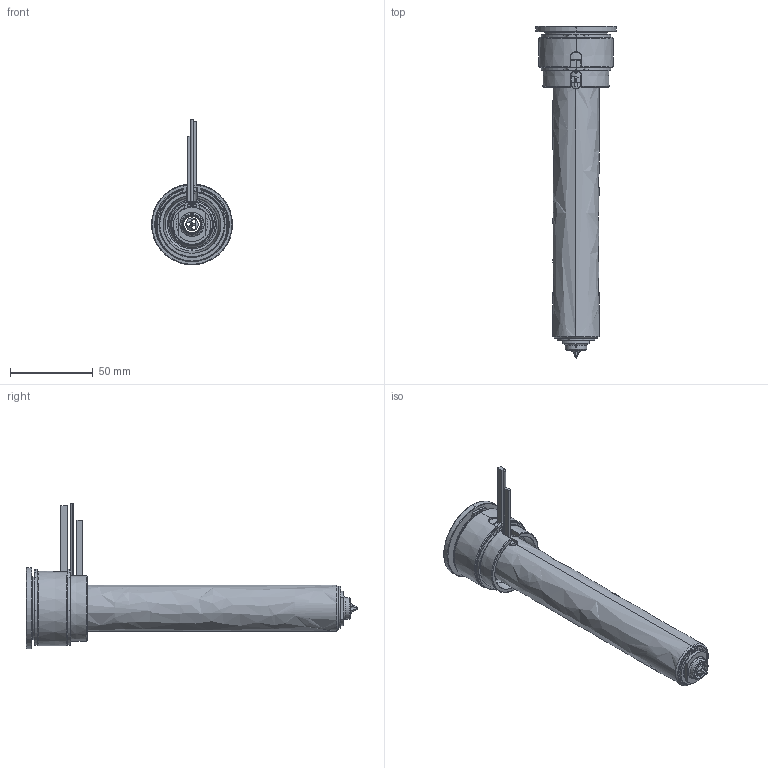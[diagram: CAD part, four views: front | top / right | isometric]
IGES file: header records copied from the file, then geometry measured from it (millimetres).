
Start section: SolidWorks IGES file using analytic representation for surfaces
Global section: file name: C:\Documents and Settings\ws-20\Desktop\TEM\UGEP4504-S-A-0 [Øf-1.17 ØC-10].IGS; native system: SolidWorks 2012; preprocessor: SolidWorks 2012; author: ws-20; date: 120424.090939; units: millimetre
Bounding box: 49 x 200.8 x 88.15 mm (x, y, z)
Surface area: 70165.8 mm2 (no closed solid volume)
Topology: 0 solids, 0 shells, 180 faces, 3431 edges, 3431 vertices
Faces by surface type: revolution 118, bspline 62
